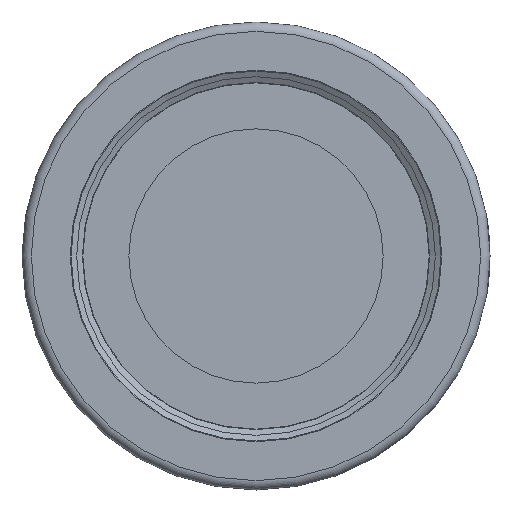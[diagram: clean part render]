
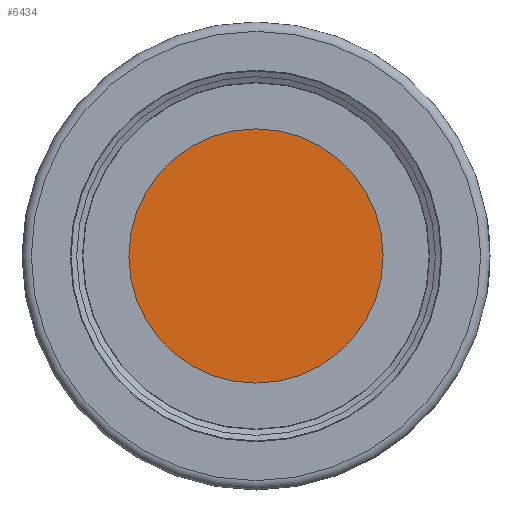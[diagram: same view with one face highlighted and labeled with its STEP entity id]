
A CAD part, left-side view. The second image highlights one B-rep face of the part: STEP entity #6434.
In plain terms, the highlighted planar face has unit normal (-1, 0, 0).
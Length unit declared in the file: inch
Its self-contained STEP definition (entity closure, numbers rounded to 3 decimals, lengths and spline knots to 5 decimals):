
#192=PLANE('',#6895);
#2088=ORIENTED_EDGE('',*,*,#2694,.T.);
#2694=EDGE_CURVE('',#3126,#3126,#3304,.T.);
#3126=VERTEX_POINT('',#10864);
#3304=CIRCLE('',#6893,0.815);
#3696=EDGE_LOOP('',(#2088));
#4091=FACE_BOUND('',#3696,.T.);
#6434=ADVANCED_FACE('',(#4091),#192,.T.);
#6893=AXIS2_PLACEMENT_3D('',#10863,#8024,#8025);
#6895=AXIS2_PLACEMENT_3D('',#10866,#8028,#8029);
#8024=DIRECTION('',(-1.,0.,0.));
#8025=DIRECTION('',(0.,0.,1.));
#8028=DIRECTION('',(-1.,0.,0.));
#8029=DIRECTION('',(0.,0.,1.));
#10863=CARTESIAN_POINT('',(0.09273,0.,0.));
#10864=CARTESIAN_POINT('',(0.09273,0.,0.815));
#10866=CARTESIAN_POINT('',(0.09273,0.,0.81));
